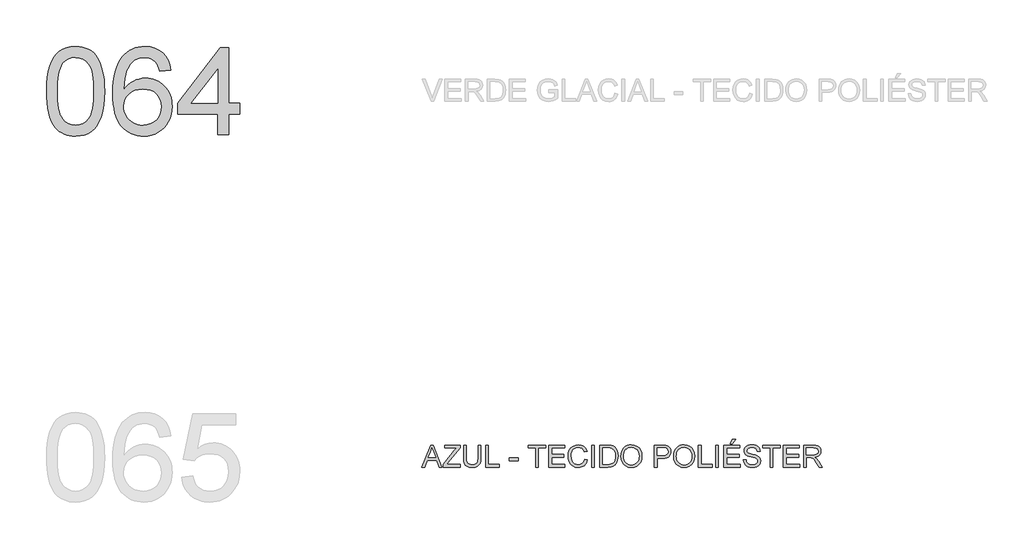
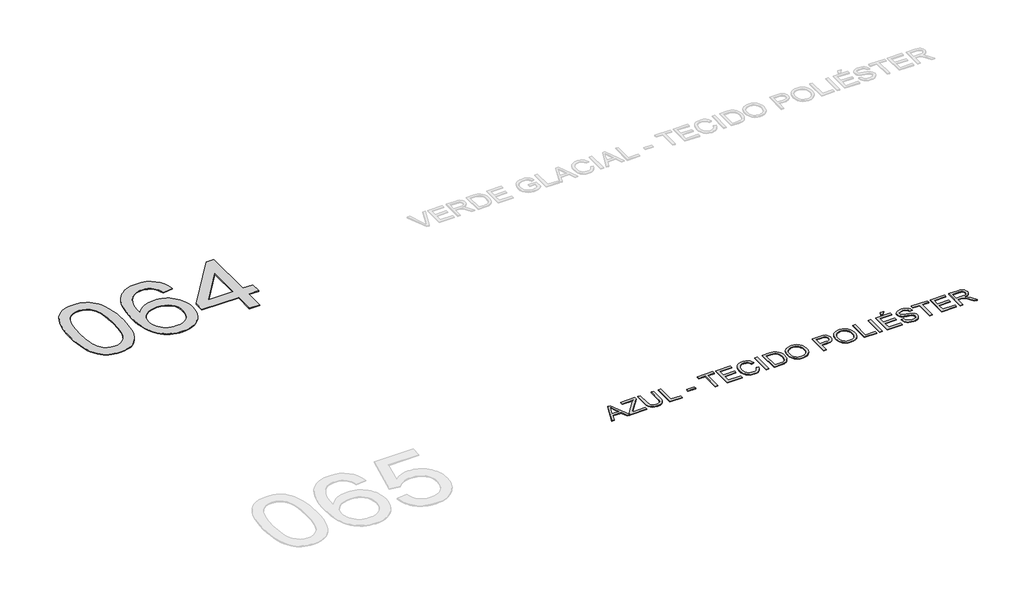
# One storey, part 12 of 35: 2 proxies.
"""IFC4 building model written with IfcOpenShell, lengths in millimetres."""

from ifc_helpers import new_model, si_unit, origin, origin_with_axes, place, context, project, spatial, polyline, outline, extrude, element, save

model = new_model("IFC4")

# Units and contexts
model_context = context("Model", 3, world=origin())
ifc_project = project(units=[si_unit("LENGTHUNIT", "METRE", prefix="MILLI")], contexts=[model_context])

# Site, building, storey
site = spatial("IfcSite", under=ifc_project)
building = spatial("IfcBuilding", under=site)
storey = spatial("IfcBuildingStorey", under=building, Name="Marelli - Linha YOU - Planta Baixa", Elevation=0.0)

# Proxies
placement = place(None, origin())
element("IfcBuildingElementProxy", 1, Name="1200mm Arial", ObjectType="1200mm Arial", at=placement, inside=storey, context=model_context, shape_type="SweptSolid", body=[
    extrude(outline(polyline([(-25275.30917, -79895.792664), (-25272.540858, -79794.4319773), (-25264.2359219, -79702.8385576), (-25250.3943618, -79621.0124048), (-25231.0161777, -79548.953519), (-25206.1841431, -79486.073289), (-25175.9810313, -79431.7831035), (-25140.4068423, -79386.0829627), (-25099.4615763, -79348.9728664), (-25053.0072773, -79320.2596767), (-25000.9059898, -79299.7502555), (-24943.1577136, -79287.4446027), (-24879.7624488, -79283.3427185), (-24832.1217304, -79285.7707396), (-24786.9090332, -79293.0548031), (-24744.1243571, -79305.194909), (-24703.7677023, -79322.1910572), (-24666.8139558, -79343.7581391), (-24634.2380052, -79369.6110463), (-24606.0398502, -79399.7497788), (-24582.2194911, -79434.1743365), (-24561.5813111, -79472.7467637), (-24542.929694, -79515.3291046), (-24511.586148, -79612.5235278), (-24499.611589, -79669.6831928), (-24491.0583327, -79735.9479371), (-24485.9263788, -79811.3177609), (-24484.2157275, -79895.792664), (-24486.9564484, -79996.5095573), (-24495.178611, -80087.6431245), (-24508.8822153, -80169.1933658), (-24528.0672614, -80241.1602811), (-24552.706158, -80304.0681023), (-24582.771314, -80358.4410612), (-24618.2627295, -80404.2791578), (-24659.1804044, -80441.5823921), (-24705.6898857, -80470.4887199), (-24757.9567202, -80491.1360968), (-24815.9809078, -80503.524523), (-24879.7624488, -80507.6539984), (-24922.4367602, -80505.8605737), (-24962.7566269, -80500.4802995), (-25000.7220488, -80491.5131759), (-25036.3330259, -80478.9592028), (-25069.5895583, -80462.8183803), (-25100.4916459, -80443.0907083), (-25129.0392887, -80419.7761868), (-25155.2324867, -80392.8748159), (-25183.3754594, -80350.2786794), (-25207.7660357, -80302.0999336), (-25228.4042156, -80248.3385785), (-25245.2899992, -80188.9946142), (-25258.4233864, -80124.0680406), (-25267.8043773, -80053.5588577), (-25273.4329718, -79977.4670655), (-25275.30917, -79895.792664)]), holes=[polyline([(-25124.6247047, -79895.4983584), (-25120.2101208, -80026.4919399), (-25106.966369, -80132.5247279), (-25097.0335551, -80176.1808245), (-25084.8934493, -80213.5967226), (-25070.5460515, -80244.7724225), (-25053.9913617, -80269.7079239), (-25016.614551, -80307.884878), (-24975.1174619, -80335.1541309), (-24929.5000945, -80351.5156826), (-24879.7624488, -80356.9695332), (-24830.024803, -80351.4972885), (-24784.4074356, -80335.0805545), (-24742.9103465, -80307.7193311), (-24705.5335358, -80269.4136183), (-24688.9788461, -80244.418336), (-24674.6314482, -80213.2104465), (-24662.4913424, -80175.7899498), (-24652.5585285, -80132.1568459), (-24639.3147767, -80026.2528166), (-24634.9001928, -79895.4983584), (-24639.1676239, -79767.9720648), (-24651.9699173, -79663.8062779), (-24661.5716374, -79620.4835744), (-24673.3070731, -79583.0009976), (-24687.1762243, -79551.3585475), (-24703.1790911, -79525.5562241), (-24739.9305024, -79485.5122689), (-24781.905838, -79456.9094438), (-24829.105098, -79439.7477487), (-24881.5282823, -79434.0271837), (-24931.0084107, -79439.067167), (-24975.8532259, -79454.187117), (-25016.062728, -79479.3870337), (-25051.6369169, -79514.666917), (-25068.7434297, -79543.2145599), (-25083.5690741, -79577.2068562), (-25096.1138501, -79616.6438061), (-25106.3777578, -79661.5254095), (-25120.062968, -79767.6225769), (-25124.6247047, -79895.4983584)])]), origin_with_axes(), (0.0, 0.0, 1.0), 10.0),
    extrude(outline(polyline([(-23580.1089362, -79603.5472071), (-23730.7934014, -79622.3827652), (-23741.8666495, -79582.0812927), (-23755.0736131, -79547.7027202), (-23770.4142923, -79519.2470479), (-23787.8886871, -79496.7142757), (-23820.2806967, -79469.2886729), (-23856.2411618, -79449.6989567), (-23895.7700822, -79437.9451269), (-23938.8674579, -79434.0271837), (-23974.4048586, -79436.3080521), (-24008.9121898, -79443.1506572), (-24042.3894513, -79454.554999), (-24074.8366433, -79470.5210776), (-24104.4419469, -79496.6315022), (-24131.4536824, -79528.1681863), (-24155.8718498, -79565.1311297), (-24177.6964492, -79607.5203326), (-24195.7686522, -79658.1316981), (-24208.9296306, -79719.7611293), (-24217.1793843, -79792.4086263), (-24220.5179134, -79876.0741891), (-24191.7955266, -79838.2099347), (-24160.0749016, -79805.5512106), (-24125.3560383, -79778.0980167), (-24087.6389367, -79755.8503531), (-24047.9352724, -79738.6610669), (-24007.2567208, -79726.3830053), (-23965.6032819, -79719.0161683), (-23922.9749557, -79716.560556), (-23886.0763916, -79718.2390176), (-23850.575779, -79723.2744024), (-23816.4731181, -79731.6667104), (-23783.7684087, -79743.4159416), (-23752.4616509, -79758.5220961), (-23722.5528447, -79776.9851737), (-23694.0419901, -79798.8051745), (-23666.9290871, -79823.9820986), (-23642.1660303, -79851.81697), (-23620.7047144, -79881.6108131), (-23602.5451394, -79913.3636278), (-23587.6873053, -79947.0754142), (-23576.1312121, -79982.7461721), (-23567.8768599, -80020.3759017), (-23562.9242485, -80059.9646029), (-23561.273378, -80101.5122757), (-23564.3819809, -80156.4462547), (-23573.7077895, -80209.4120649), (-23589.2508038, -80260.4097065), (-23611.0110238, -80309.4391794), (-23638.2158973, -80354.6702707), (-23670.0928722, -80394.2727675), (-23706.6419484, -80428.2466698), (-23747.863126, -80456.5919775), (-23792.8734881, -80478.9316116), (-23840.790118, -80494.8884932), (-23891.6130156, -80504.4626221), (-23945.342181, -80507.6539984), (-23991.3435252, -80505.5386769), (-24035.1697672, -80499.1927125), (-24076.8209068, -80488.6161052), (-24116.2969442, -80473.8088549), (-24153.5978792, -80454.7709616), (-24188.723712, -80431.5024254), (-24221.6744424, -80404.0032463), (-24252.4500706, -80372.2734242), (-24280.2826428, -80335.6875598), (-24304.4042053, -80293.6202536), (-24324.8147583, -80246.0715057), (-24341.5143016, -80193.0413161), (-24354.5028353, -80134.5296848), (-24363.7803594, -80070.5366117), (-24369.3468738, -80001.062097), (-24371.2023786, -79926.1061404), (-24369.1422394, -79842.1784618), (-24362.9618219, -79764.1828803), (-24352.6611261, -79692.1193959), (-24338.2401519, -79625.9880088), (-24319.6988993, -79565.7887188), (-24297.0373684, -79511.521526), (-24270.2555591, -79463.1864303), (-24239.3534716, -79420.7834319), (-24209.3388993, -79388.5707647), (-24176.8319265, -79360.6531198), (-24141.8325532, -79337.0304971), (-24104.3407793, -79317.7028968), (-24064.356605, -79302.6703188), (-24021.8800301, -79291.9327631), (-23976.9110547, -79285.4902296), (-23929.4496788, -79283.3427185), (-23860.0487404, -79288.6586133), (-23797.2328897, -79304.6062978), (-23741.0021268, -79331.1857719), (-23691.3564515, -79368.3970358), (-23649.6386333, -79414.9892904), (-23617.1914413, -79469.7117372), (-23594.0148756, -79532.5643761), (-23580.1089362, -79603.5472071)]), holes=[polyline([(-24220.5179134, -80099.157831), (-24218.3382126, -80132.9202011), (-24211.7991101, -80165.9284131), (-24200.900606, -80198.182467), (-24185.6427003, -80229.6823629), (-24166.7703539, -80258.9473756), (-24145.028528, -80284.4967801), (-24120.4172225, -80306.3305766), (-24092.9364375, -80324.4487648), (-24062.7609168, -80338.676601), (-24030.0654045, -80348.8393411), (-23994.8499005, -80354.9369852), (-23957.1144049, -80356.9695332), (-23904.7372058, -80352.7572843), (-23857.6759016, -80340.1205378), (-23815.9304922, -80319.0592936), (-23779.5009776, -80289.5735517), (-23749.9508563, -80252.8589286), (-23728.8436268, -80210.1110407), (-23716.1792892, -80161.3298882), (-23711.9578433, -80106.5154709), (-23716.1241069, -80053.8439662), (-23728.6228976, -80007.0769676), (-23749.4542156, -79966.214475), (-23778.6180608, -79931.2564884), (-23815.15794, -79903.2514715), (-23858.1173599, -79883.247888), (-23907.4963208, -79871.2457379), (-23963.2948224, -79867.2450212), (-24014.9730456, -79871.2457379), (-24062.5861729, -79883.247888), (-24106.134204, -79903.2514715), (-24145.6171392, -79931.2564884), (-24178.3862279, -79965.7546225), (-24201.7927198, -80005.2375576), (-24215.836615, -80049.7052938), (-24220.5179134, -80099.157831)])]), origin_with_axes(), (0.0, 0.0, 1.0), 10.0),
    extrude(outline(polyline([(-22939.699959, -80488.8184403), (-22939.699959, -80206.285068), (-23485.9311454, -80206.285068), (-23485.9311454, -80055.6006027), (-22902.0288427, -79302.1782766), (-22789.0154938, -79302.1782766), (-22789.0154938, -80055.6006027), (-22638.3310285, -80055.6006027), (-22638.3310285, -80206.285068), (-22789.0154938, -80206.285068), (-22789.0154938, -80488.8184403), (-22939.699959, -80488.8184403)]), holes=[polyline([(-22939.699959, -80055.6006027), (-22939.699959, -79590.0091496), (-23300.5186199, -80055.6006027), (-22939.699959, -80055.6006027)])]), origin_with_axes(), (0.0, 0.0, 1.0), 10.0),
])
element("IfcBuildingElementProxy", 2, Name="300mm Arial", ObjectType="300mm Arial", at=placement, inside=storey, context=model_context, shape_type="SweptSolid", body=[
    extrude(outline(polyline([(-20150.7232128, -85030.5663201), (-20030.4258004, -84729.1973896), (-19998.3464904, -84729.1973896), (-19878.049078, -85030.5663201), (-19917.8539099, -85030.5663201), (-19952.361241, -84936.3885293), (-20076.4846262, -84936.3885293), (-20110.9183809, -85030.5663201), (-20150.7232128, -85030.5663201)]), holes=[polyline([(-20062.6522632, -84898.717413), (-19966.1200276, -84898.717413), (-19993.2697189, -84824.6259792), (-20014.3861454, -84766.8685059), (-20033.1481272, -84818.1512561), (-20062.6522632, -84898.717413)])]), origin_with_axes(), (0.0, 0.0, 1.0), 10.0),
    extrude(outline(polyline([(-19861.3472354, -85030.5663201), (-19861.3472354, -84991.4972522), (-19707.2046794, -84802.7737887), (-19677.9212726, -84766.8685059), (-19842.5116773, -84766.8685059), (-19842.5116773, -84729.1973896), (-19630.611648, -84729.1973896), (-19630.611648, -84766.8685059), (-19799.322331, -84973.397458), (-19815.2148332, -84992.8952038), (-19625.9027585, -84992.8952038), (-19625.9027585, -85030.5663201), (-19861.3472354, -85030.5663201)])), origin_with_axes(), (0.0, 0.0, 1.0), 10.0),
    extrude(outline(polyline([(-19385.7493921, -84729.1973896), (-19348.0782757, -84729.1973896), (-19348.0782757, -84903.0584205), (-19350.6350556, -84943.7737604), (-19358.3053952, -84975.1265034), (-19372.6343989, -84999.3147446), (-19395.1671711, -85018.5365788), (-19425.9588941, -85031.0905519), (-19465.0647502, -85035.2752096), (-19503.3152807, -85031.6331779), (-19533.8954715, -85020.7070826), (-19556.8145198, -85002.8740029), (-19572.0816226, -84978.5110178), (-19580.6624701, -84945.8338995), (-19583.5227527, -84903.0584205), (-19583.5227527, -84729.1973896), (-19545.8516364, -84729.1973896), (-19545.8516364, -84901.7340454), (-19543.9938323, -84935.588386), (-19538.4204201, -84959.1604248), (-19528.3220593, -84975.4851883), (-19512.8894096, -84987.597703), (-19492.7662645, -84995.1024957), (-19468.5964174, -84997.6040933), (-19430.2815076, -84992.6560805), (-19415.9387083, -84986.4710644), (-19404.8056794, -84977.812042), (-19396.4685537, -84965.6351479), (-19390.5134639, -84948.8965171), (-19385.7493921, -84901.7340454), (-19385.7493921, -84729.1973896)])), origin_with_axes(), (0.0, 0.0, 1.0), 10.0),
    extrude(outline(polyline([(-19282.1538222, -85030.5663201), (-19282.1538222, -84729.1973896), (-19244.4827059, -84729.1973896), (-19244.4827059, -84992.8952038), (-19093.7982407, -84992.8952038), (-19093.7982407, -85030.5663201), (-19282.1538222, -85030.5663201)])), origin_with_axes(), (0.0, 0.0, 1.0), 10.0),
    extrude(outline(polyline([(-18957.2404441, -84941.0974188), (-18957.2404441, -84903.4263025), (-18839.5182056, -84903.4263025), (-18839.5182056, -84941.0974188), (-18957.2404441, -84941.0974188)])), origin_with_axes(), (0.0, 0.0, 1.0), 10.0),
    extrude(outline(polyline([(-18599.3648392, -85030.5663201), (-18599.3648392, -84766.8685059), (-18698.2515195, -84766.8685059), (-18698.2515195, -84729.1973896), (-18462.8070426, -84729.1973896), (-18462.8070426, -84766.8685059), (-18561.6937229, -84766.8685059), (-18561.6937229, -85030.5663201), (-18599.3648392, -85030.5663201)])), origin_with_axes(), (0.0, 0.0, 1.0), 10.0),
    extrude(outline(polyline([(-18420.4270367, -85030.5663201), (-18420.4270367, -84729.1973896), (-18203.818118, -84729.1973896), (-18203.818118, -84766.8685059), (-18382.7559204, -84766.8685059), (-18382.7559204, -84856.3374072), (-18213.235897, -84856.3374072), (-18213.235897, -84894.0085235), (-18382.7559204, -84894.0085235), (-18382.7559204, -84992.8952038), (-18199.1092284, -84992.8952038), (-18199.1092284, -85030.5663201), (-18420.4270367, -85030.5663201)])), origin_with_axes(), (0.0, 0.0, 1.0), 10.0),
    extrude(outline(polyline([(-17930.7025247, -84923.4390831), (-17893.0314084, -84933.1511677), (-17900.4856174, -84956.5783531), (-17910.4138327, -84977.0486868), (-17922.8160545, -84994.5621691), (-17937.6922826, -85009.1187997), (-17954.7068249, -85020.5622291), (-17973.523989, -85028.7361071), (-17994.1437748, -85033.640434), (-18016.5661824, -85035.2752096), (-18060.2613664, -85030.3271968), (-18094.9618356, -85015.4831583), (-18121.5597038, -84991.2581289), (-18140.947085, -84958.1671434), (-18152.7836882, -84919.2636224), (-18156.7292226, -84877.6009865), (-18152.2686534, -84833.6574822), (-18138.8869458, -84795.7104543), (-18117.2830756, -84764.9647166), (-18088.1560187, -84742.6250824), (-18053.6118993, -84729.0226457), (-18015.756842, -84724.4885001), (-17974.452891, -84730.3562179), (-17956.4841548, -84737.6908652), (-17940.3042448, -84747.9593714), (-17926.1798755, -84760.8904235), (-17914.3777612, -84776.2127086), (-17897.740298, -84814.0309777), (-17935.4114143, -84823.0072984), (-17948.4712251, -84795.5357104), (-17966.3135019, -84776.6909552), (-17989.1589738, -84765.7924511), (-18017.22837, -84762.1596164), (-18049.5835915, -84766.1879242), (-18076.1630656, -84778.2728478), (-18096.332196, -84797.1451941), (-18109.4563862, -84821.5357704), (-18116.6576762, -84849.1085259), (-18119.0581063, -84877.5274101), (-18116.2162178, -84912.3290468), (-18107.6905526, -84942.421794), (-18093.1592138, -84966.6560205), (-18072.3003047, -84983.8820949), (-18047.2935261, -84994.1735937), (-18020.3185788, -84997.6040933), (-17988.8738652, -84992.931992), (-17962.6714701, -84978.9156879), (-17942.8886158, -84955.7023341), (-17930.7025247, -84923.4390831)])), origin_with_axes(), (0.0, 0.0, 1.0), 10.0),
    extrude(outline(polyline([(-17836.524734, -85030.5663201), (-17836.524734, -84729.1973896), (-17798.8536177, -84729.1973896), (-17798.8536177, -85030.5663201), (-17836.524734, -85030.5663201)])), origin_with_axes(), (0.0, 0.0, 1.0), 10.0),
    extrude(outline(polyline([(-17723.511385, -85030.5663201), (-17723.511385, -84729.1973896), (-17619.5479332, -84729.1973896), (-17565.7635855, -84733.5383972), (-17541.7408912, -84741.9077126), (-17521.4705933, -84755.0962821), (-17500.6300783, -84778.0521186), (-17485.7860398, -84806.5997614), (-17476.9016896, -84840.1873876), (-17473.9402395, -84878.2631741), (-17475.9451964, -84910.6091985), (-17481.960067, -84939.0740679), (-17491.1203287, -84963.3082943), (-17502.5614587, -84982.9623899), (-17515.7316342, -84998.477813), (-17530.079032, -85010.2960221), (-17546.5509483, -85019.0608107), (-17566.0946793, -85025.4159721), (-17614.5447381, -85030.5663201), (-17723.511385, -85030.5663201)]), holes=[polyline([(-17685.8402687, -84992.8952038), (-17619.1800512, -84992.8952038), (-17591.6072957, -84991.5340404), (-17570.6932043, -84987.4505502), (-17554.9110667, -84980.8838566), (-17542.7341726, -84972.0730828), (-17529.6467706, -84955.7667134), (-17519.8151243, -84934.6594839), (-17513.6622979, -84908.6594239), (-17511.6113558, -84877.6745629), (-17515.6304666, -84836.6189322), (-17527.687799, -84806.3054558), (-17545.5024846, -84785.4833349), (-17566.7936551, -84772.9017706), (-17588.4619046, -84768.3768221), (-17620.2101208, -84766.8685059), (-17685.8402687, -84766.8685059), (-17685.8402687, -84992.8952038)])]), origin_with_axes(), (0.0, 0.0, 1.0), 10.0),
    extrude(outline(polyline([(-17436.2691232, -84883.8549804), (-17433.7583286, -84848.5061192), (-17426.2259447, -84817.213157), (-17413.6719717, -84789.9760937), (-17396.0964093, -84766.7949295), (-17374.55232, -84748.2858666), (-17350.0927658, -84735.0651074), (-17322.7177469, -84727.1326519), (-17292.4272631, -84724.4885001), (-17252.8983427, -84729.454907), (-17217.4529125, -84744.3541278), (-17188.0223529, -84768.1376988), (-17166.5380444, -84799.7571563), (-17153.4046571, -84837.68579), (-17149.0268614, -84880.3968896), (-17153.6345834, -84923.6782064), (-17167.4577493, -84962.140269), (-17189.7330041, -84993.8149088), (-17219.6969927, -85016.733957), (-17254.8389202, -85030.6398965), (-17292.6479923, -85035.2752096), (-17332.783918, -85030.1524528), (-17368.4316833, -85014.7841825), (-17397.7886665, -84990.5591531), (-17419.0522458, -84958.8661192), (-17431.9649039, -84922.3998164), (-17436.2691232, -84883.8549804)]), holes=[polyline([(-17398.5980069, -84884.2228624), (-17396.7149109, -84909.1974513), (-17391.0656231, -84931.3669401), (-17381.6501432, -84950.7313286), (-17368.4684715, -84967.2906169), (-17352.4449114, -84980.5527628), (-17334.5037663, -84990.0257242), (-17314.6450363, -84995.709501), (-17292.8687215, -84997.6040933), (-17270.7199261, -84995.6911069), (-17250.6266714, -84989.9521478), (-17232.5889573, -84980.3872159), (-17216.6067839, -84966.9963113), (-17203.5216812, -84950.0875351), (-17194.1751792, -84929.9689885), (-17188.5672781, -84906.6406715), (-17186.6979777, -84880.102584), (-17189.898551, -84846.7540812), (-17199.5002711, -84817.9305269), (-17215.2548176, -84794.358488), (-17236.91387, -84776.7645316), (-17263.0426887, -84765.8108452), (-17292.2065339, -84762.1596164), (-17313.2263914, -84763.9185522), (-17332.7287357, -84769.1953595), (-17350.7135667, -84777.9900385), (-17367.1808845, -84790.302589), (-17380.9258756, -84806.7262208), (-17390.7437263, -84827.8541437), (-17396.6344368, -84853.6863575), (-17398.5980069, -84884.2228624)])]), origin_with_axes(), (0.0, 0.0, 1.0), 10.0),
    extrude(outline(polyline([(-16979.506838, -85030.5663201), (-16979.506838, -84729.1973896), (-16867.8178643, -84729.1973896), (-16822.7891081, -84732.0668692), (-16802.7119482, -84737.4287493), (-16786.1848495, -84746.1567496), (-16772.8767184, -84758.6463433), (-16762.4564608, -84775.2930036), (-16755.7242203, -84794.9287051), (-16753.4801402, -84816.3854225), (-16754.9953541, -84834.8852883), (-16759.540996, -84851.9044291), (-16767.1170659, -84867.4428449), (-16777.7235636, -84881.5005356), (-16792.2847929, -84893.1531978), (-16811.7250571, -84901.476528), (-16836.0443562, -84906.470526), (-16865.2426903, -84908.1351921), (-16941.8357217, -84908.1351921), (-16941.8357217, -85030.5663201), (-16979.506838, -85030.5663201)]), holes=[polyline([(-16941.8357217, -84870.4640758), (-16863.0353983, -84870.4640758), (-16829.6317132, -84867.005985), (-16807.5587935, -84856.6317127), (-16795.2531407, -84839.9850525), (-16791.1512565, -84817.7097977), (-16793.5700806, -84800.7872259), (-16800.8265529, -84786.5134045), (-16812.0193626, -84775.7712502), (-16826.2471988, -84769.4436799), (-16863.9183151, -84766.8685059), (-16941.8357217, -84766.8685059), (-16941.8357217, -84870.4640758)])]), origin_with_axes(), (0.0, 0.0, 1.0), 10.0),
    extrude(outline(polyline([(-16715.8090239, -84883.8549804), (-16713.2982292, -84848.5061192), (-16705.7658454, -84817.213157), (-16693.2118723, -84789.9760937), (-16675.63631, -84766.7949295), (-16654.0922206, -84748.2858666), (-16629.6326665, -84735.0651074), (-16602.2576475, -84727.1326519), (-16571.9671637, -84724.4885001), (-16532.4382434, -84729.454907), (-16496.9928131, -84744.3541278), (-16467.5622535, -84768.1376988), (-16446.077945, -84799.7571563), (-16432.9445578, -84837.68579), (-16428.566762, -84880.3968896), (-16433.174484, -84923.6782064), (-16446.99765, -84962.140269), (-16469.2729048, -84993.8149088), (-16499.2368933, -85016.733957), (-16534.3788209, -85030.6398965), (-16572.1878929, -85035.2752096), (-16612.3238186, -85030.1524528), (-16647.9715839, -85014.7841825), (-16677.3285672, -84990.5591531), (-16698.5921465, -84958.8661192), (-16711.5048045, -84922.3998164), (-16715.8090239, -84883.8549804)]), holes=[polyline([(-16678.1379076, -84884.2228624), (-16676.2548116, -84909.1974513), (-16670.6055237, -84931.3669401), (-16661.1900439, -84950.7313286), (-16648.0083721, -84967.2906169), (-16631.984812, -84980.5527628), (-16614.0436669, -84990.0257242), (-16594.184937, -84995.709501), (-16572.4086221, -84997.6040933), (-16550.2598268, -84995.6911069), (-16530.166572, -84989.9521478), (-16512.128858, -84980.3872159), (-16496.1466845, -84966.9963113), (-16483.0615818, -84950.0875351), (-16473.7150799, -84929.9689885), (-16468.1071787, -84906.6406715), (-16466.2378783, -84880.102584), (-16469.4384517, -84846.7540812), (-16479.0401718, -84817.9305269), (-16494.7947182, -84794.358488), (-16516.4537707, -84776.7645316), (-16542.5825894, -84765.8108452), (-16571.7464345, -84762.1596164), (-16592.766292, -84763.9185522), (-16612.2686363, -84769.1953595), (-16630.2534674, -84777.9900385), (-16646.7207852, -84790.302589), (-16660.4657762, -84806.7262208), (-16670.283627, -84827.8541437), (-16676.1743374, -84853.6863575), (-16678.1379076, -84884.2228624)])]), origin_with_axes(), (0.0, 0.0, 1.0), 10.0),
    extrude(outline(polyline([(-16376.7689771, -85030.5663201), (-16376.7689771, -84729.1973896), (-16339.0978608, -84729.1973896), (-16339.0978608, -84992.8952038), (-16188.4133956, -84992.8952038), (-16188.4133956, -85030.5663201), (-16376.7689771, -85030.5663201)])), origin_with_axes(), (0.0, 0.0, 1.0), 10.0),
    extrude(outline(polyline([(-16141.3245002, -85030.5663201), (-16141.3245002, -84729.1973896), (-16103.6533839, -84729.1973896), (-16103.6533839, -85030.5663201), (-16141.3245002, -85030.5663201)])), origin_with_axes(), (0.0, 0.0, 1.0), 10.0),
    extrude(outline(polyline([(-16028.3111513, -85030.5663201), (-16028.3111513, -84729.1973896), (-15811.7022325, -84729.1973896), (-15811.7022325, -84766.8685059), (-15990.640035, -84766.8685059), (-15990.640035, -84856.3374072), (-15821.1200116, -84856.3374072), (-15821.1200116, -84894.0085235), (-15990.640035, -84894.0085235), (-15990.640035, -84992.8952038), (-15806.993343, -84992.8952038), (-15806.993343, -85030.5663201), (-16028.3111513, -85030.5663201)])), origin_with_axes(), (0.0, 0.0, 1.0), 10.0),
    extrude(outline(polyline([(-15943.5511396, -84710.3618315), (-15915.2978024, -84653.855157), (-15868.208907, -84653.855157), (-15915.2978024, -84710.3618315), (-15943.5511396, -84710.3618315)])), origin_with_axes(), (0.0, 0.0, 1.0), 10.0),
    extrude(outline(polyline([(-15764.6133371, -84926.9707502), (-15726.9422208, -84926.9707502), (-15722.6196074, -84947.8756446), (-15714.802115, -84964.6786547), (-15702.6068268, -84978.0143771), (-15685.1508262, -84988.517408), (-15663.8136705, -84995.332422), (-15639.9749172, -84997.6040933), (-15618.9872493, -84995.884245), (-15600.6115437, -84990.7247), (-15585.7215199, -84982.5577197), (-15575.1908978, -84971.8155654), (-15568.9277068, -84959.4823216), (-15566.8399765, -84946.5420724), (-15568.403475, -84933.932917), (-15573.0939704, -84923.0344129), (-15582.6221141, -84913.7361955), (-15598.6985573, -84905.9279001), (-15653.5497628, -84891.5437141), (-15689.5562131, -84882.0247675), (-15712.594823, -84872.9656733), (-15731.3476077, -84860.2921386), (-15744.6373448, -84844.9330653), (-15752.5560047, -84827.2195472), (-15755.1955581, -84807.4826782), (-15751.9306053, -84785.4189555), (-15742.1357472, -84764.845155), (-15726.0685011, -84747.4075484), (-15703.9863843, -84734.7524077), (-15677.4804866, -84727.054477), (-15648.1418975, -84724.4885001), (-15616.3568931, -84727.1740386), (-15588.5450142, -84735.2306543), (-15565.6995423, -84748.4928003), (-15548.8137588, -84766.7949295), (-15538.1267868, -84788.9966079), (-15533.8777498, -84813.9574013), (-15571.5488661, -84813.9574013), (-15578.4650476, -84791.4798114), (-15592.8860218, -84775.2562154), (-15615.418794, -84765.4337661), (-15646.6703695, -84762.1596164), (-15678.657709, -84765.3969779), (-15700.60187, -84775.1090626), (-15713.2937988, -84789.4012781), (-15717.5244417, -84806.3790322), (-15714.5262035, -84820.8551887), (-15705.5314887, -84832.4986539), (-15684.2679094, -84842.9097143), (-15644.0216191, -84853.541504), (-15602.4877419, -84863.6398648), (-15577.3614016, -84872.4506385), (-15555.8862901, -84886.1174547), (-15540.9042959, -84902.9848441), (-15532.1027191, -84922.868866), (-15529.1688602, -84945.5855792), (-15532.5441775, -84968.8081301), (-15542.6701294, -84990.6511236), (-15559.1328487, -85009.4498935), (-15581.5184681, -85023.539774), (-15608.4382331, -85032.3413507), (-15638.5033892, -85035.2752096), (-15675.4111504, -85032.1114244), (-15705.7890061, -85022.620069), (-15729.9864443, -85006.764355), (-15748.3529529, -84984.5074943), (-15760.1435709, -84957.3945912), (-15764.6133371, -84926.9707502)])), origin_with_axes(), (0.0, 0.0, 1.0), 10.0),
    extrude(outline(polyline([(-15397.3199531, -85030.5663201), (-15397.3199531, -84766.8685059), (-15496.2066335, -84766.8685059), (-15496.2066335, -84729.1973896), (-15260.7621565, -84729.1973896), (-15260.7621565, -84766.8685059), (-15359.6488368, -84766.8685059), (-15359.6488368, -85030.5663201), (-15397.3199531, -85030.5663201)])), origin_with_axes(), (0.0, 0.0, 1.0), 10.0),
    extrude(outline(polyline([(-15218.3821507, -85030.5663201), (-15218.3821507, -84729.1973896), (-15001.7732319, -84729.1973896), (-15001.7732319, -84766.8685059), (-15180.7110344, -84766.8685059), (-15180.7110344, -84856.3374072), (-15011.191011, -84856.3374072), (-15011.191011, -84894.0085235), (-15180.7110344, -84894.0085235), (-15180.7110344, -84992.8952038), (-14997.0643424, -84992.8952038), (-14997.0643424, -85030.5663201), (-15218.3821507, -85030.5663201)])), origin_with_axes(), (0.0, 0.0, 1.0), 10.0),
    extrude(outline(polyline([(-14940.5576679, -85030.5663201), (-14940.5576679, -84729.1973896), (-14810.6953236, -84729.1973896), (-14775.7925193, -84731.2299376), (-14750.3994646, -84737.3275817), (-14731.839818, -84748.5847708), (-14717.4372379, -84766.0959537), (-14708.1942027, -84787.8101885), (-14705.113191, -84811.6765329), (-14710.2175537, -84841.3646099), (-14725.5306418, -84865.9759154), (-14737.1304209, -84876.0052983), (-14751.5123077, -84884.0205273), (-14788.6224039, -84894.0085235), (-14767.2116718, -84910.1217548), (-14736.6774662, -84948.8965171), (-14686.4247857, -85030.5663201), (-14730.2027431, -85030.5663201), (-14769.4189638, -84968.0999573), (-14797.7458774, -84926.750021), (-14817.6482933, -84907.2154871), (-14835.5641465, -84900.0417882), (-14857.416337, -84898.717413), (-14902.8865516, -84898.717413), (-14902.8865516, -85030.5663201), (-14940.5576679, -85030.5663201)]), holes=[polyline([(-14902.8865516, -84861.0462967), (-14818.5679983, -84861.0462967), (-14794.352166, -84859.7127245), (-14775.5625931, -84855.7120078), (-14761.4175304, -84848.7774322), (-14751.1352286, -84838.6422832), (-14744.8720377, -84826.3826157), (-14742.7843073, -84813.0744845), (-14746.7666299, -84794.6987789), (-14758.7135977, -84779.8915286), (-14779.2690042, -84770.1242616), (-14809.0766429, -84766.8685059), (-14902.8865516, -84766.8685059), (-14902.8865516, -84861.0462967)])]), origin_with_axes(), (0.0, 0.0, 1.0), 10.0),
])

save(model, "model.ifc")
